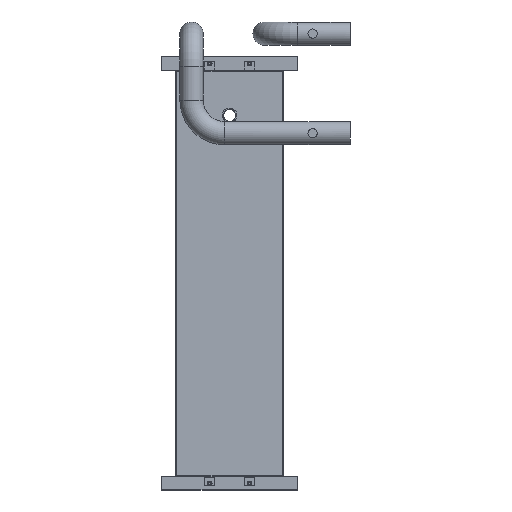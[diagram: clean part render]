
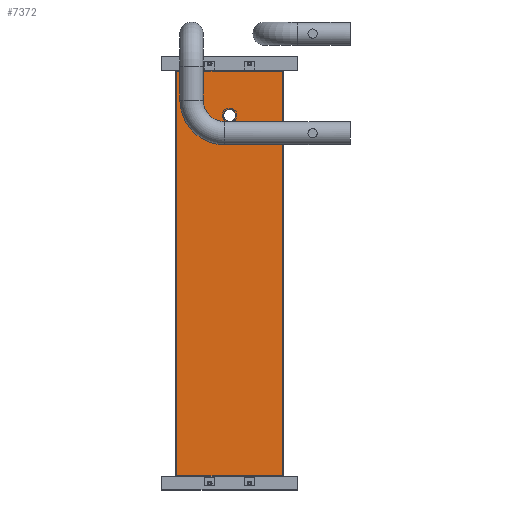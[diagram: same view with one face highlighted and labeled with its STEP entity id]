
A CAD part, top view. The second image highlights one B-rep face of the part: STEP entity #7372.
In plain terms, the highlighted planar face has unit normal (0, 0.013, 1).
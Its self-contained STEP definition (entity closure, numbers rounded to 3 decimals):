
#7280 = CYLINDRICAL_SURFACE('',#7281,9.);
#7281 = AXIS2_PLACEMENT_3D('',#7282,#7283,#7284);
#7282 = CARTESIAN_POINT('',(110.,605.775,8.));
#7283 = DIRECTION('',(0.,0.,1.));
#7284 = DIRECTION('',(1.,0.,-0.));
#7308 = EDGE_CURVE('',#7309,#7309,#7311,.T.);
#7309 = VERTEX_POINT('',#7310);
#7310 = CARTESIAN_POINT('',(119.,605.775,26.389));
#7311 = SURFACE_CURVE('',#7312,(#7317,#7337),.PCURVE_S1.);
#7312 = ELLIPSE('',#7313,9.001,9.);
#7313 = AXIS2_PLACEMENT_3D('',#7314,#7315,#7316);
#7314 = CARTESIAN_POINT('',(110.,605.775,26.389));
#7315 = DIRECTION('',(0.,-0.013,-1.));
#7316 = DIRECTION('',(0.,-1.,0.013));
#7317 = PCURVE('',#7280,#7318);
#7318 = DEFINITIONAL_REPRESENTATION('',(#7319),#7336);
#7319 = B_SPLINE_CURVE_WITH_KNOTS('',8,(#7320,#7321,#7322,#7323,#7324,
    #7325,#7326,#7327,#7328,#7329,#7330,#7331,#7332,#7333,#7334,#7335),
  .UNSPECIFIED.,.F.,.F.,(9,7,9),(4.712,7.854,
    10.996),.UNSPECIFIED.);
#7320 = CARTESIAN_POINT('',(6.283,18.389));
#7321 = CARTESIAN_POINT('',(5.89,18.435));
#7322 = CARTESIAN_POINT('',(5.498,18.481));
#7323 = CARTESIAN_POINT('',(5.105,18.517));
#7324 = CARTESIAN_POINT('',(4.712,18.53));
#7325 = CARTESIAN_POINT('',(4.32,18.517));
#7326 = CARTESIAN_POINT('',(3.927,18.481));
#7327 = CARTESIAN_POINT('',(3.534,18.435));
#7328 = CARTESIAN_POINT('',(2.749,18.343));
#7329 = CARTESIAN_POINT('',(2.356,18.296));
#7330 = CARTESIAN_POINT('',(1.963,18.261));
#7331 = CARTESIAN_POINT('',(1.571,18.248));
#7332 = CARTESIAN_POINT('',(1.178,18.261));
#7333 = CARTESIAN_POINT('',(0.785,18.296));
#7334 = CARTESIAN_POINT('',(0.393,18.343));
#7335 = CARTESIAN_POINT('',(0.,18.389));
#7336 = ( GEOMETRIC_REPRESENTATION_CONTEXT(2) 
PARAMETRIC_REPRESENTATION_CONTEXT() REPRESENTATION_CONTEXT('2D SPACE',''
  ) );
#7337 = PCURVE('',#7338,#7343);
#7338 = PLANE('',#7339);
#7339 = AXIS2_PLACEMENT_3D('',#7340,#7341,#7342);
#7340 = CARTESIAN_POINT('',(29.,673.775,25.5));
#7341 = DIRECTION('',(0.,-0.013,-1.));
#7342 = DIRECTION('',(0.,-1.,0.013));
#7343 = DEFINITIONAL_REPRESENTATION('',(#7344),#7348);
#7344 = ELLIPSE('',#7345,9.001,9.);
#7345 = AXIS2_PLACEMENT_2D('',#7346,#7347);
#7346 = CARTESIAN_POINT('',(68.006,-81.));
#7347 = DIRECTION('',(1.,0.));
#7348 = ( GEOMETRIC_REPRESENTATION_CONTEXT(2) 
PARAMETRIC_REPRESENTATION_CONTEXT() REPRESENTATION_CONTEXT('2D SPACE',''
  ) );
#7372 = ADVANCED_FACE('',(#7373,#7485),#7338,.F.);
#7373 = FACE_BOUND('',#7374,.F.);
#7374 = EDGE_LOOP('',(#7375,#7405,#7433,#7459));
#7375 = ORIENTED_EDGE('',*,*,#7376,.F.);
#7376 = EDGE_CURVE('',#7377,#7379,#7381,.T.);
#7377 = VERTEX_POINT('',#7378);
#7378 = CARTESIAN_POINT('',(30.5,61.775,33.5));
#7379 = VERTEX_POINT('',#7380);
#7380 = CARTESIAN_POINT('',(189.5,61.775,33.5));
#7381 = SURFACE_CURVE('',#7382,(#7386,#7393),.PCURVE_S1.);
#7382 = LINE('',#7383,#7384);
#7383 = CARTESIAN_POINT('',(29.,61.775,33.5));
#7384 = VECTOR('',#7385,1.);
#7385 = DIRECTION('',(1.,0.,0.));
#7386 = PCURVE('',#7338,#7387);
#7387 = DEFINITIONAL_REPRESENTATION('',(#7388),#7392);
#7388 = LINE('',#7389,#7390);
#7389 = CARTESIAN_POINT('',(612.052,0.));
#7390 = VECTOR('',#7391,1.);
#7391 = DIRECTION('',(0.,-1.));
#7392 = ( GEOMETRIC_REPRESENTATION_CONTEXT(2) 
PARAMETRIC_REPRESENTATION_CONTEXT() REPRESENTATION_CONTEXT('2D SPACE',''
  ) );
#7393 = PCURVE('',#7394,#7399);
#7394 = PLANE('',#7395);
#7395 = AXIS2_PLACEMENT_3D('',#7396,#7397,#7398);
#7396 = CARTESIAN_POINT('',(29.,61.775,33.5));
#7397 = DIRECTION('',(0.,0.,1.));
#7398 = DIRECTION('',(1.,0.,-0.));
#7399 = DEFINITIONAL_REPRESENTATION('',(#7400),#7404);
#7400 = LINE('',#7401,#7402);
#7401 = CARTESIAN_POINT('',(0.,0.));
#7402 = VECTOR('',#7403,1.);
#7403 = DIRECTION('',(1.,0.));
#7404 = ( GEOMETRIC_REPRESENTATION_CONTEXT(2) 
PARAMETRIC_REPRESENTATION_CONTEXT() REPRESENTATION_CONTEXT('2D SPACE',''
  ) );
#7405 = ORIENTED_EDGE('',*,*,#7406,.T.);
#7406 = EDGE_CURVE('',#7377,#7407,#7409,.T.);
#7407 = VERTEX_POINT('',#7408);
#7408 = CARTESIAN_POINT('',(30.5,672.275,25.52));
#7409 = SURFACE_CURVE('',#7410,(#7414,#7421),.PCURVE_S1.);
#7410 = LINE('',#7411,#7412);
#7411 = CARTESIAN_POINT('',(30.5,61.775,33.5));
#7412 = VECTOR('',#7413,1.);
#7413 = DIRECTION('',(0.,1.,-0.013));
#7414 = PCURVE('',#7338,#7415);
#7415 = DEFINITIONAL_REPRESENTATION('',(#7416),#7420);
#7416 = LINE('',#7417,#7418);
#7417 = CARTESIAN_POINT('',(612.052,-1.5));
#7418 = VECTOR('',#7419,1.);
#7419 = DIRECTION('',(-1.,-0.));
#7420 = ( GEOMETRIC_REPRESENTATION_CONTEXT(2) 
PARAMETRIC_REPRESENTATION_CONTEXT() REPRESENTATION_CONTEXT('2D SPACE',''
  ) );
#7421 = PCURVE('',#7422,#7427);
#7422 = PLANE('',#7423);
#7423 = AXIS2_PLACEMENT_3D('',#7424,#7425,#7426);
#7424 = CARTESIAN_POINT('',(30.5,367.775,33.75));
#7425 = DIRECTION('',(1.,0.,0.));
#7426 = DIRECTION('',(-0.,0.,1.));
#7427 = DEFINITIONAL_REPRESENTATION('',(#7428),#7432);
#7428 = LINE('',#7429,#7430);
#7429 = CARTESIAN_POINT('',(-0.25,306.));
#7430 = VECTOR('',#7431,1.);
#7431 = DIRECTION('',(-0.013,-1.));
#7432 = ( GEOMETRIC_REPRESENTATION_CONTEXT(2) 
PARAMETRIC_REPRESENTATION_CONTEXT() REPRESENTATION_CONTEXT('2D SPACE',''
  ) );
#7433 = ORIENTED_EDGE('',*,*,#7434,.T.);
#7434 = EDGE_CURVE('',#7407,#7435,#7437,.T.);
#7435 = VERTEX_POINT('',#7436);
#7436 = CARTESIAN_POINT('',(189.5,672.275,25.52));
#7437 = SURFACE_CURVE('',#7438,(#7442,#7448),.PCURVE_S1.);
#7438 = LINE('',#7439,#7440);
#7439 = CARTESIAN_POINT('',(29.,672.275,25.52));
#7440 = VECTOR('',#7441,1.);
#7441 = DIRECTION('',(1.,0.,0.));
#7442 = PCURVE('',#7338,#7443);
#7443 = DEFINITIONAL_REPRESENTATION('',(#7444),#7447);
#7444 = B_SPLINE_CURVE_WITH_KNOTS('',1,(#7445,#7446),.UNSPECIFIED.,.F.,
  .F.,(2,2),(1.5,160.5),.PIECEWISE_BEZIER_KNOTS.);
#7445 = CARTESIAN_POINT('',(1.5,-1.5));
#7446 = CARTESIAN_POINT('',(1.5,-160.5));
#7447 = ( GEOMETRIC_REPRESENTATION_CONTEXT(2) 
PARAMETRIC_REPRESENTATION_CONTEXT() REPRESENTATION_CONTEXT('2D SPACE',''
  ) );
#7448 = PCURVE('',#7449,#7454);
#7449 = PLANE('',#7450);
#7450 = AXIS2_PLACEMENT_3D('',#7451,#7452,#7453);
#7451 = CARTESIAN_POINT('',(29.,672.275,25.5));
#7452 = DIRECTION('',(-0.,1.,0.));
#7453 = DIRECTION('',(0.,0.,1.));
#7454 = DEFINITIONAL_REPRESENTATION('',(#7455),#7458);
#7455 = B_SPLINE_CURVE_WITH_KNOTS('',1,(#7456,#7457),.UNSPECIFIED.,.F.,
  .F.,(2,2),(1.5,160.5),.PIECEWISE_BEZIER_KNOTS.);
#7456 = CARTESIAN_POINT('',(0.02,1.5));
#7457 = CARTESIAN_POINT('',(0.02,160.5));
#7458 = ( GEOMETRIC_REPRESENTATION_CONTEXT(2) 
PARAMETRIC_REPRESENTATION_CONTEXT() REPRESENTATION_CONTEXT('2D SPACE',''
  ) );
#7459 = ORIENTED_EDGE('',*,*,#7460,.F.);
#7460 = EDGE_CURVE('',#7379,#7435,#7461,.T.);
#7461 = SURFACE_CURVE('',#7462,(#7466,#7473),.PCURVE_S1.);
#7462 = LINE('',#7463,#7464);
#7463 = CARTESIAN_POINT('',(189.5,61.775,33.5));
#7464 = VECTOR('',#7465,1.);
#7465 = DIRECTION('',(0.,1.,-0.013));
#7466 = PCURVE('',#7338,#7467);
#7467 = DEFINITIONAL_REPRESENTATION('',(#7468),#7472);
#7468 = LINE('',#7469,#7470);
#7469 = CARTESIAN_POINT('',(612.052,-160.5));
#7470 = VECTOR('',#7471,1.);
#7471 = DIRECTION('',(-1.,-0.));
#7472 = ( GEOMETRIC_REPRESENTATION_CONTEXT(2) 
PARAMETRIC_REPRESENTATION_CONTEXT() REPRESENTATION_CONTEXT('2D SPACE',''
  ) );
#7473 = PCURVE('',#7474,#7479);
#7474 = PLANE('',#7475);
#7475 = AXIS2_PLACEMENT_3D('',#7476,#7477,#7478);
#7476 = CARTESIAN_POINT('',(189.5,367.775,33.75));
#7477 = DIRECTION('',(1.,0.,0.));
#7478 = DIRECTION('',(-0.,0.,1.));
#7479 = DEFINITIONAL_REPRESENTATION('',(#7480),#7484);
#7480 = LINE('',#7481,#7482);
#7481 = CARTESIAN_POINT('',(-0.25,306.));
#7482 = VECTOR('',#7483,1.);
#7483 = DIRECTION('',(-0.013,-1.));
#7484 = ( GEOMETRIC_REPRESENTATION_CONTEXT(2) 
PARAMETRIC_REPRESENTATION_CONTEXT() REPRESENTATION_CONTEXT('2D SPACE',''
  ) );
#7485 = FACE_BOUND('',#7486,.F.);
#7486 = EDGE_LOOP('',(#7487));
#7487 = ORIENTED_EDGE('',*,*,#7308,.F.);
